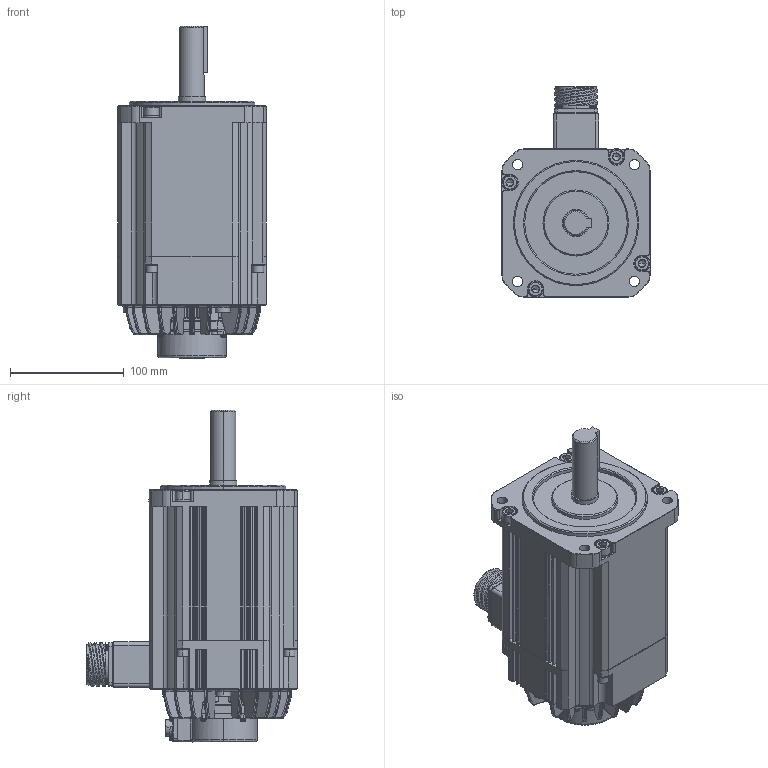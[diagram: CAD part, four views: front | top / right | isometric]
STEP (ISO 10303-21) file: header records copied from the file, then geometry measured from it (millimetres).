
FILE_DESCRIPTION (( 'STEP AP203' ), '1' );
FILE_NAME ('TSM3510N7375E722‘•”z.STEP', '2018-06-29T05:05:01', ( '' ), ( '' ), 'SwSTEP 2.0', 'SolidWorks 2017', '' );
FILE_SCHEMA (( 'CONFIG_CONTROL_DESIGN' ));
Products named in the file (1): TSM3510N7375E722装配
Bounding box: 130.5 x 185.2 x 291.5 mm (x, y, z)
Volume: 2860550.1 mm3; surface area: 197203 mm2
Topology: 1 solids, 24 shells, 3238 faces, 8151 edges, 4965 vertices
Faces by surface type: bspline 1088, plane 1061, cylinder 830, cone 259
Entity records: 158650 total; most frequent: CARTESIAN_POINT 89820, ORIENTED_EDGE 16092, DIRECTION 11679, EDGE_CURVE 8046, VERTEX_POINT 4965, AXIS2_PLACEMENT_3D 4005, VECTOR 3669, LINE 3669
